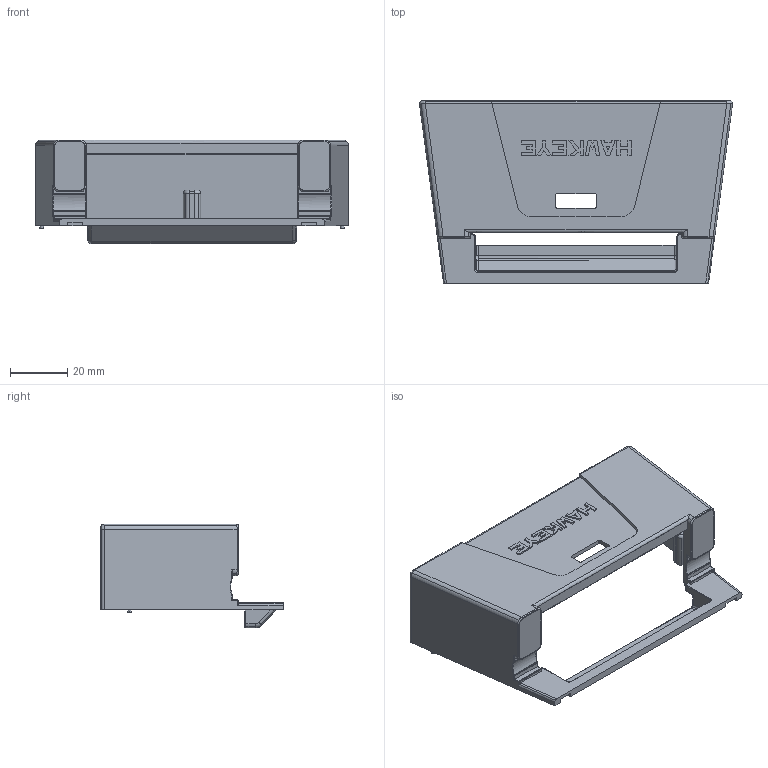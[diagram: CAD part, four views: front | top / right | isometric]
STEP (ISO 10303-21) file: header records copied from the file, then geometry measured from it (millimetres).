
FILE_DESCRIPTION(('STEP AP214'),'1');
FILE_NAME('Front Cover bottom v15.stp','2020-03-23T15:49:01',(' '),(' '),'Spatial InterOp 3D',' ',' ');
FILE_SCHEMA(('AUTOMOTIVE_DESIGN { 1 0 10303 214 1 1 1 1 }'));
Length unit declared in the file: metre
Products named in the file (1): Corps1
Bounding box: 109.44 x 63.74 x 36.25 mm (x, y, z)
Volume: 28067 mm3; surface area: 28382.2 mm2
Topology: 1 solids, 1 shells, 479 faces, 1290 edges, 823 vertices
Faces by surface type: cylinder 231, plane 172, torus 36, bspline 32, sphere 8
Entity records: 21213 total; most frequent: CARTESIAN_POINT 8950, DIRECTION 2644, ORIENTED_EDGE 2572, EDGE_CURVE 1286, AXIS2_PLACEMENT_3D 973, VERTEX_POINT 823, LINE 698, VECTOR 698
